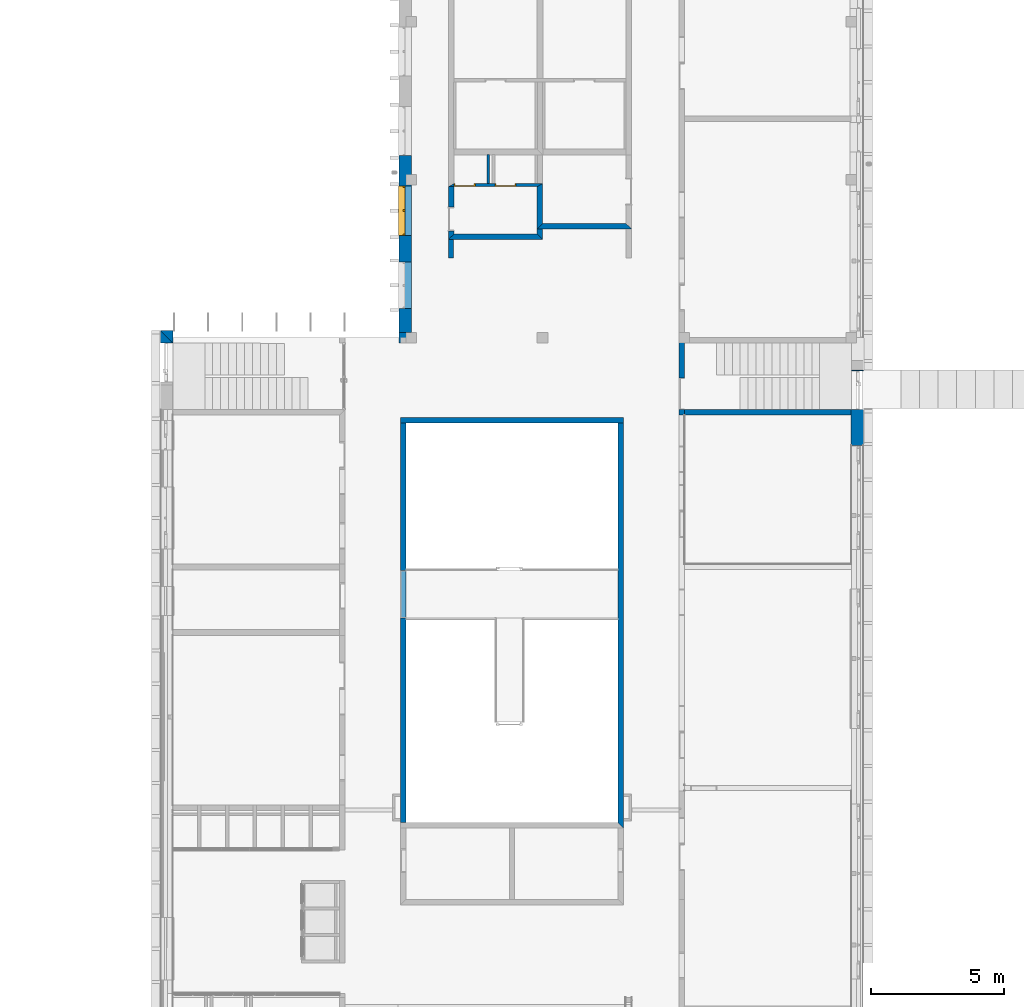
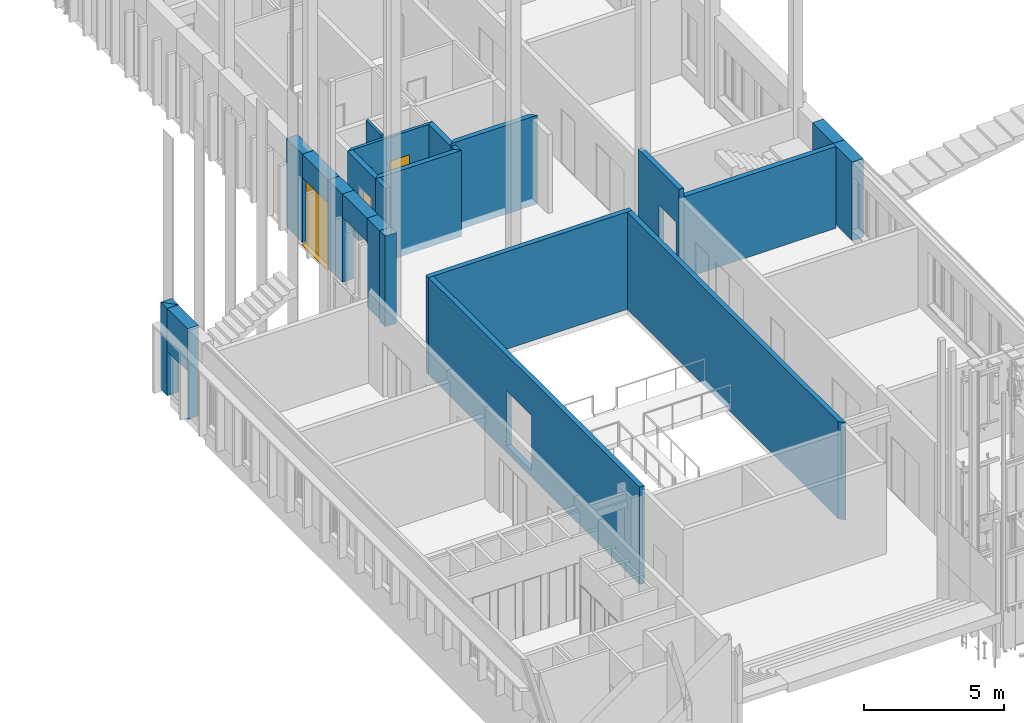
# One storey, part 14 of 89: 24 walls, 2 doors, 1 window, 9 openings.
"""IFC2X3 building model written with IfcOpenShell, lengths in millimetres."""

from ifc_helpers import new_model, entity, si_unit, converted_unit, derived_unit, money_unit, direction, frame, origin_with_axes, origin_2d_with_axis, place, context, subcontext, project, spatial, polyline, rectangle, outline, extrude, open_shell, faceted_brep, surface_model, source, transform, mapped, material, layer, layer_set, layer_usage, type_object, element, fill, save


model = new_model("IFC2X3")

# Units and contexts
model_context = context("Model", 3, precision=0.01, world=origin_with_axes(), true_north=direction((0.0, 1.0)))
body_context = subcontext(model_context, "Body", "Model", "MODEL_VIEW")
ifc_project = project(units=[si_unit("LENGTHUNIT", "METRE", prefix="MILLI"), si_unit("AREAUNIT", "SQUARE_METRE"), si_unit("VOLUMEUNIT", "CUBIC_METRE"), converted_unit("PLANEANGLEUNIT", "DEGREE", entity("IfcPlaneAngleMeasure", 0.0174532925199), si_unit("PLANEANGLEUNIT", "RADIAN"), dimensions=[0, 0, 0, 0, 0, 0, 0]), si_unit("SOLIDANGLEUNIT", "STERADIAN"), money_unit("EUR"), converted_unit("TIMEUNIT", "Year", entity("IfcTimeMeasure", 31556926.0), si_unit("TIMEUNIT", "SECOND"), dimensions=[0, 0, 1, 0, 0, 0, 0]), si_unit("MASSUNIT", "GRAM", prefix="KILO"), si_unit("THERMODYNAMICTEMPERATUREUNIT", "DEGREE_CELSIUS"), si_unit("LUMINOUSINTENSITYUNIT", "LUMEN"), si_unit("ENERGYUNIT", "JOULE", prefix="MEGA"), derived_unit("THERMALCONDUCTANCEUNIT", [(si_unit("POWERUNIT", "WATT"), 1), (si_unit("LENGTHUNIT", "METRE"), -1), (si_unit("THERMODYNAMICTEMPERATUREUNIT", "KELVIN"), -1)]), derived_unit("SPECIFICHEATCAPACITYUNIT", [(si_unit("ENERGYUNIT", "JOULE"), 1), (si_unit("MASSUNIT", "GRAM", prefix="KILO"), -1), (si_unit("THERMODYNAMICTEMPERATUREUNIT", "KELVIN"), -1)]), derived_unit("MASSDENSITYUNIT", [(si_unit("MASSUNIT", "GRAM", prefix="KILO"), 1), (si_unit("VOLUMEUNIT", "CUBIC_METRE"), -1)])], contexts=[model_context])

# Site, building, storey
site_placement = place(None, origin_with_axes())
site = spatial("IfcSite", under=ifc_project, at=site_placement, Name="Puškini 31, Narva", CompositionType="ELEMENT")
building_placement = place(site_placement, origin_with_axes())
building = spatial("IfcBuilding", under=site, at=building_placement, Name="Narva Riigigümnaasium", CompositionType="ELEMENT")
storey_placement = place(building_placement, frame((0.0, 0.0, -3300.0), z_axis=(0.0, 0.0, 1.0), x_axis=(1.0, 0.0, 0.0)))
storey = spatial("IfcBuildingStorey", under=building, at=storey_placement, Name="1.korrus -3.3", CompositionType="ELEMENT", Elevation=-3300.0)

# Wall
ifc_material_1 = material(Name="fassaadiplaat")
ifc_layer_1 = layer(ifc_material_1, 8.0, ventilated="UNKNOWN")
ifc_material_2 = material(Name="Salto-roovitus")
ifc_layer_2 = layer(ifc_material_2, 50.0, ventilated="UNKNOWN")
ifc_material_3 = material(Name="Salto-PIR soojustus")
ifc_layer_3 = layer(ifc_material_3, 50.0, ventilated="UNKNOWN")
ifc_layer_4 = layer(ifc_material_3, 150.0, ventilated="UNKNOWN")
ifc_material_4 = material(Name="Betoon element")
ifc_layer_5 = layer(ifc_material_4, 200.0, ventilated="UNKNOWN")
ifc_material_5 = material(Name="Salto-siseviimistlus-seinad")
ifc_layer_6 = layer(ifc_material_5, 10.0, ventilated="UNKNOWN")
ifc_layer_set_1 = layer_set([ifc_layer_1, ifc_layer_2, ifc_layer_3, ifc_layer_4, ifc_layer_5, ifc_layer_6], Name="G-VS-01")
ifc_layer_usage_1 = layer_usage(ifc_layer_set_1, "AXIS2", "NEGATIVE", 458.0)
wall_type_1 = type_object("IfcWallType", Name="G-VS-01 468", PredefinedType="NOTDEFINED")
wall_1_placement = place(storey_placement, frame((54000.000001, 221279.999999, 136.939766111), z_axis=(0.0, 0.0, 1.0), x_axis=(0.0, -1.0, 0.0)))
element("IfcWallStandardCase", 1, at=wall_1_placement, inside=storey, type_object=wall_type_1, material=ifc_layer_usage_1, Name="Välissein", context=body_context, shape_type="SweptSolid", body=[
    extrude(outline(polyline([(0.0, -10.0), (1348.97816396, -10.0), (1348.97816396, 458.0), (0.0, 458.0), (0.0, -10.0)])), origin_with_axes(), (0.0, 0.0, 1.0), 3428.06023389),
])

# Wall, opening, window
ifc_layer_usage_2 = layer_usage(ifc_layer_set_1, "AXIS2", "POSITIVE", -458.0)
wall_2_placement = place(storey_placement, frame((37400.0000002, 229709.212578, 0.0), z_axis=(0.0, 0.0, 1.0), x_axis=(0.0, -1.0, 0.0)))
wall_2 = element("IfcWallStandardCase", 2, at=wall_2_placement, inside=storey, type_object=wall_type_1, material=ifc_layer_usage_2, Name="Välissein", context=body_context, shape_type="SweptSolid", body=[
    extrude(outline(polyline([(0.0, -458.0), (1850.0, -458.0), (1850.0, 10.0), (0.0, 10.0), (0.0, -458.0)])), origin_with_axes(), (0.0, 0.0, 1.0), 3959.99999955),
])
opening_1_placement = place(wall_2_placement, frame((925.0, 0.0, 0.0), z_axis=(0.0, 0.0, 1.0), x_axis=(1.0, 0.0, 0.0)))
opening_1 = element("IfcOpeningElement", 3, at=opening_1_placement, cuts=wall_2, Name="G-A-30", context=body_context, shape_type="SweptSolid", body=[
    extrude(rectangle(XDim=1850.0, YDim=2940.0, at=origin_2d_with_axis()), frame((0.0, -308.0, 1470.0), z_axis=(0.0, -1.0, 0.0), x_axis=(1.0, 0.0, 0.0)), (0.0, 0.0, -1.0), 786.0),
    extrude(rectangle(XDim=1850.0, YDim=2940.0, at=origin_2d_with_axis()), frame((0.0, -308.0, 1470.0), z_axis=(0.0, 1.0, 0.0), x_axis=(1.0, 0.0, 0.0)), (0.0, 0.0, -1.0), 618.0),
])
window_style = type_object("IfcWindowStyle", Name="Horizontal Multi-Sash Window 23", ConstructionType="NOTDEFINED", OperationType="DOUBLE_PANEL_VERTICAL", ParameterTakesPrecedence=False, Sizeable=False)
shared_shape_1 = source(origin_with_axes(), body_context, "Body", "SurfaceModel", [
    surface_model("IfcShellBasedSurfaceModel", [(-925.0, -76.0, 50.0), (-925.0, -76.0, 40.0), (925.0, -76.0, 40.0), (925.0, -76.0, 50.0), (-925.0, -255.0, 28.0), (925.0, -255.0, 28.0), (-925.0, -255.0, 8.0), (925.0, -255.0, 8.0), (-925.0, -245.0, 18.0), (925.0, -245.0, 18.0)], [open_shell([[[0, 1, 2, 3]], [[1, 4, 5, 2]], [[4, 6, 7, 5]], [[6, 8, 9, 7]]])]),
    faceted_brep([(-875.0, -75.0, 2890.0), (-875.0, 0.0, 2890.0), (-925.0, 0.0, 2890.0), (-925.0, -75.0, 2890.0), (-875.0, -75.0, 50.0), (-875.0, 0.0, 50.0), (-925.0, 0.0, 50.0), (-925.0, -75.0, 50.0)], [[[0, 1, 2, 3]], [[4, 5, 1, 0]], [[1, 5, 6, 2]], [[3, 2, 6, 7]], [[0, 3, 7, 4]], [[7, 6, 5, 4]]]),
    faceted_brep([(875.0, -75.0, 50.0), (875.0, 0.0, 50.0), (925.0, 0.0, 50.0), (925.0, -75.0, 50.0), (875.0, -75.0, 2890.0), (875.0, 0.0, 2890.0), (925.0, 0.0, 2890.0), (925.0, -75.0, 2890.0)], [[[0, 1, 2, 3]], [[4, 5, 1, 0]], [[1, 5, 6, 2]], [[3, 2, 6, 7]], [[0, 3, 7, 4]], [[7, 6, 5, 4]]]),
    faceted_brep([(875.0, -75.0, 2890.0), (875.0, 0.0, 2890.0), (925.0, 0.0, 2890.0), (925.0, -75.0, 2890.0), (37.5, -75.0, 2890.0), (37.5, 0.0, 2890.0), (-37.5, 0.0, 2890.0), (-875.0, 0.0, 2890.0), (-925.0, 0.0, 2890.0), (-925.0, 0.0, 2940.0), (925.0, 0.0, 2940.0), (925.0, -75.0, 2940.0), (-925.0, -75.0, 2940.0), (-925.0, -75.0, 2890.0), (-875.0, -75.0, 2890.0), (-37.5, -75.0, 2890.0)], [[[0, 1, 2, 3]], [[4, 5, 1, 0]], [[1, 5, 6, 7, 8, 9, 10, 2]], [[3, 2, 10, 11]], [[0, 3, 11, 12, 13, 14, 15, 4]], [[15, 6, 5, 4]], [[14, 7, 6, 15]], [[13, 8, 7, 14]], [[12, 9, 8, 13]], [[11, 10, 9, 12]]]),
    faceted_brep([(37.5, -75.0, 50.0), (37.5, 0.0, 50.0), (-37.5, 0.0, 50.0), (-37.5, -75.0, 50.0), (875.0, -75.0, 50.0), (875.0, 0.0, 50.0), (925.0, 0.0, 50.0), (925.0, 0.0, 0.0), (-925.0, 0.0, 0.0), (-925.0, 0.0, 50.0), (-875.0, 0.0, 50.0), (-875.0, -75.0, 50.0), (-925.0, -75.0, 50.0), (-925.0, -75.0, 0.0), (925.0, -75.0, 0.0), (925.0, -75.0, 50.0)], [[[0, 1, 2, 3]], [[4, 5, 1, 0]], [[1, 5, 6, 7, 8, 9, 10, 2]], [[3, 2, 10, 11]], [[0, 3, 11, 12, 13, 14, 15, 4]], [[15, 6, 5, 4]], [[14, 7, 6, 15]], [[13, 8, 7, 14]], [[12, 9, 8, 13]], [[11, 10, 9, 12]]]),
    faceted_brep([(37.5, -75.0, 50.0), (37.5, 0.0, 50.0), (37.5, 0.0, 2890.0), (37.5, -75.0, 2890.0), (-37.5, -75.0, 50.0), (-37.5, 0.0, 50.0), (-37.5, 0.0, 2890.0), (-37.5, -75.0, 2890.0)], [[[0, 1, 2, 3]], [[4, 5, 1, 0]], [[1, 5, 6, 2]], [[3, 2, 6, 7]], [[0, 3, 7, 4]], [[7, 6, 5, 4]]]),
    surface_model("IfcShellBasedSurfaceModel", [(-875.0, -80.0, 50.0), (-37.5, -80.0, 50.0), (-37.5, -80.0, 2890.0), (-875.0, -80.0, 2890.0)], [open_shell([[[0, 1, 2, 3]]])]),
    surface_model("IfcShellBasedSurfaceModel", [(-875.0, -60.0, 50.0), (-875.0, -60.0, 2890.0), (-37.5, -60.0, 2890.0), (-37.5, -60.0, 50.0)], [open_shell([[[0, 1, 2, 3]]])]),
    surface_model("IfcShellBasedSurfaceModel", [(37.5, -80.0, 50.0), (875.0, -80.0, 50.0), (875.0, -80.0, 2890.0), (37.5, -80.0, 2890.0)], [open_shell([[[0, 1, 2, 3]]])]),
    surface_model("IfcShellBasedSurfaceModel", [(37.5, -60.0, 50.0), (37.5, -60.0, 2890.0), (875.0, -60.0, 2890.0), (875.0, -60.0, 50.0)], [open_shell([[[0, 1, 2, 3]]])]),
])
window_placement = place(opening_1_placement, frame((-925.0, 0.0, 0.0), z_axis=(0.0, 0.0, 1.0), x_axis=(1.0, 0.0, 0.0)))
window = element("IfcWindow", 4, at=window_placement, inside=storey, type_object=window_style, Name="G-A-30", ObjectType="WINDOW", OverallHeight=2940.0, OverallWidth=1850.0, context=body_context, shape_type="MappedRepresentation", body=[
    mapped(shared_shape_1, transform((925.0, -233.0, 0.0))),
])
fill(opening_1, window)

# Wall, opening
wall_3_placement = place(storey_placement, frame((37400.0000002, 226846.000005, 0.0), z_axis=(0.0, 0.0, 1.0), x_axis=(0.0, -1.0, 0.0)))
wall_3 = element("IfcWallStandardCase", 5, at=wall_3_placement, inside=storey, type_object=wall_type_1, material=ifc_layer_usage_2, Name="Välissein", context=body_context, shape_type="SweptSolid", body=[
    extrude(outline(polyline([(0.0, -458.0), (1750.0, -458.0), (1750.0, 10.0), (0.0, 10.0), (0.0, -458.0)])), origin_with_axes(), (0.0, 0.0, 1.0), 3959.99999955),
])
opening_2_placement = place(wall_3_placement, frame((875.0, 0.0, 0.0), z_axis=(0.0, 0.0, 1.0), x_axis=(1.0, 0.0, 0.0)))
element("IfcOpeningElement", 6, at=opening_2_placement, cuts=wall_3, Name="G-A-41", context=body_context, shape_type="SweptSolid", body=[
    extrude(rectangle(XDim=1750.0, YDim=2940.0, at=origin_2d_with_axis()), frame((0.0, -308.0, 1470.0), z_axis=(0.0, -1.0, 0.0), x_axis=(1.0, 0.0, 0.0)), (0.0, 0.0, -1.0), 786.0),
    extrude(rectangle(XDim=1750.0, YDim=2940.0, at=origin_2d_with_axis()), frame((0.0, -308.0, 1470.0), z_axis=(0.0, 1.0, 0.0), x_axis=(1.0, 0.0, 0.0)), (0.0, 0.0, -1.0), 618.0),
])

# Walls
wall_4_placement = place(storey_placement, frame((37400.0000002, 230859.212578, 100.0), z_axis=(0.0, 0.0, 1.0), x_axis=(0.0, -1.0, 0.0)))
element("IfcWallStandardCase", 7, at=wall_4_placement, inside=storey, type_object=wall_type_1, material=ifc_layer_usage_2, Name="Välissein", context=body_context, shape_type="SweptSolid", body=[
    extrude(outline(polyline([(0.0, -458.0), (1150.0, -458.0), (1150.0, 10.0), (0.0, 10.0), (0.0, -458.0)])), origin_with_axes(), (0.0, 0.0, 1.0), 3859.99999955),
])
wall_5_placement = place(storey_placement, frame((37400.0000002, 227859.212578, 100.0), z_axis=(0.0, 0.0, 1.0), x_axis=(0.0, -1.0, 0.0)))
element("IfcWallStandardCase", 8, at=wall_5_placement, inside=storey, type_object=wall_type_1, material=ifc_layer_usage_2, Name="Välissein", context=body_context, shape_type="SweptSolid", body=[
    extrude(outline(polyline([(0.0, -458.0), (1013.21257351, -458.0), (1013.21257351, 10.0), (0.0, 10.0), (0.0, -458.0)])), origin_with_axes(), (0.0, 0.0, 1.0), 3859.99999955),
])
wall_6_placement = place(storey_placement, frame((37400.0000002, 225096.000005, 100.0), z_axis=(0.0, 0.0, 1.0), x_axis=(0.0, -1.0, 0.0)))
element("IfcWallStandardCase", 9, at=wall_6_placement, inside=storey, type_object=wall_type_1, material=ifc_layer_usage_2, Name="Välissein", context=body_context, shape_type="SweptSolid", body=[
    extrude(outline(polyline([(0.0, -458.0), (1296.00000413, -458.0), (1296.00000413, 10.0), (0.0, 10.0), (0.0, -458.0)])), origin_with_axes(), (0.0, 0.0, 1.0), 3859.99999955),
])
wall_7_placement = place(storey_placement, frame((37400.0000002, 224200.0, 0.0), z_axis=(0.0, 0.0, 1.0), x_axis=(0.0, -1.0, 0.0)))
element("IfcWallStandardCase", 10, at=wall_7_placement, inside=storey, type_object=wall_type_1, material=ifc_layer_usage_2, Name="Välissein", context=body_context, shape_type="SweptSolid", body=[
    extrude(outline(polyline([(0.0, -458.0), (399.999999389, -458.0), (399.999999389, 10.0), (0.0, 10.0), (0.0, -458.0)])), origin_with_axes(), (0.0, 0.0, 1.0), 3959.99999955),
])

# Wall, opening
ifc_layer_set_2 = layer_set([ifc_layer_5], Name="G-SS-01")
ifc_layer_usage_3 = layer_usage(ifc_layer_set_2, "AXIS2", "POSITIVE", 0.0)
wall_type_2 = type_object("IfcWallType", Name="G-SS-01 200", PredefinedType="NOTDEFINED")
wall_8_placement = place(storey_placement, frame((47499.9999928, 224000.0, 0.0), z_axis=(0.0, 0.0, 1.0), x_axis=(0.0, -1.0, 0.0)))
wall_8 = element("IfcWallStandardCase", 11, at=wall_8_placement, inside=storey, type_object=wall_type_2, material=ifc_layer_usage_3, Name="Sisesein", context=body_context, shape_type="SweptSolid", body=[
    extrude(outline(polyline([(0.0, 0.0), (2930.00000142, 0.0), (2930.00000142, 200.0), (0.0, 200.0), (0.0, 0.0)])), origin_with_axes(), (0.0, 0.0, 1.0), 3960.0),
])
opening_3_placement = place(wall_8_placement, frame((2120.00000153, 0.0, 0.0), z_axis=(0.0, 0.0, 1.0), x_axis=(1.0, 0.0, 0.0)))
element("IfcOpeningElement", 12, at=opening_3_placement, cuts=wall_8, Name="G-SU-032", context=body_context, shape_type="SweptSolid", body=[
    extrude(rectangle(XDim=1199.99999978, YDim=2400.0, at=origin_2d_with_axis()), frame((0.0, 50.0, 1200.0), z_axis=(0.0, -1.0, 0.0), x_axis=(1.0, 0.0, 0.0)), (0.0, 0.0, -1.0), 350.0),
    extrude(rectangle(XDim=1199.99999978, YDim=2400.0, at=origin_2d_with_axis()), frame((0.0, 50.0, 1200.0), z_axis=(0.0, 1.0, 0.0), x_axis=(1.0, 0.0, 0.0)), (0.0, 0.0, -1.0), 250.0),
    extrude(rectangle(XDim=1199.99999978, YDim=2400.0, at=origin_2d_with_axis()), frame((0.0, 200.0, 1200.0), z_axis=(0.0, -1.0, 0.0), x_axis=(1.0, 0.0, 0.0)), (0.0, 0.0, -1.0), 350.0),
])

# Wall
ifc_layer_usage_4 = layer_usage(ifc_layer_set_2, "AXIS2", "NEGATIVE", 0.0)
wall_9_placement = place(storey_placement, frame((45400.0000855, 220780.0, -290.0), z_axis=(0.0, 0.0, 1.0), x_axis=(-1.0, 0.0, 0.0)))
element("IfcWallStandardCase", 13, at=wall_9_placement, inside=storey, type_object=wall_type_2, material=ifc_layer_usage_4, Name="Sisesein", context=body_context, shape_type="SweptSolid", body=[
    extrude(outline(polyline([(0.0, -200.0), (8399.99972301, -200.0), (8399.99972301, 0.0), (0.0, 0.0), (0.0, -200.0)])), origin_with_axes(), (0.0, 0.0, 1.0), 4250.0),
])

# Wall, opening
wall_10_placement = place(storey_placement, frame((37200.0042688, 220780.0, -290.0), z_axis=(0.0, 0.0, 1.0), x_axis=(0.0, -1.0, 0.0)))
wall_10 = element("IfcWallStandardCase", 14, at=wall_10_placement, inside=storey, type_object=wall_type_2, material=ifc_layer_usage_4, Name="Sisesein", context=body_context, shape_type="SweptSolid", body=[
    extrude(outline(polyline([(0.0, -200.0), (15079.9999758, -200.0), (15079.9999758, 0.0), (0.0, 0.0), (0.0, -200.0)])), origin_with_axes(), (0.0, 0.0, 1.0), 4250.0),
])
opening_4_placement = place(wall_10_placement, frame((6465.49976501, 0.0, 290.0), z_axis=(0.0, 0.0, 1.0), x_axis=(1.0, 0.0, 0.0)))
element("IfcOpeningElement", 15, at=opening_4_placement, cuts=wall_10, Name="G-SU-036", context=body_context, shape_type="SweptSolid", body=[
    extrude(rectangle(XDim=1799.99999997, YDim=2400.0, at=origin_2d_with_axis()), frame((0.0, 200.0, 1200.0), z_axis=(0.0, 1.0, 0.0), x_axis=(1.0, 0.0, 0.0)), (0.0, 0.0, -1.0), 600.0),
])

# Wall
wall_11_placement = place(storey_placement, frame((45199.9998549, 205700.000024, -290.0), z_axis=(0.0, 0.0, 1.0), x_axis=(0.0, 1.0, 0.0)))
element("IfcWallStandardCase", 16, at=wall_11_placement, inside=storey, type_object=wall_type_2, material=ifc_layer_usage_4, Name="Sisesein", context=body_context, shape_type="SweptSolid", body=[
    extrude(outline(polyline([(-200.0, -200.0), (15079.9999758, -200.0), (15079.9999758, 0.0), (0.0, 0.0), (-200.0, -200.0)])), origin_with_axes(), (0.0, 0.0, 1.0), 4250.0),
])

# Wall, opening
ifc_layer_set_3 = layer_set([ifc_layer_1, ifc_layer_2, ifc_layer_3, ifc_layer_4, ifc_layer_5], Name="G-VS-01-01")
ifc_layer_usage_5 = layer_usage(ifc_layer_set_3, "AXIS2", "NEGATIVE", 458.0)
wall_type_3 = type_object("IfcWallType", Name="G-VS-01-01 458", PredefinedType="NOTDEFINED")
wall_12_placement = place(storey_placement, frame((54000.000001, 222780.236748, 136.939766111), z_axis=(0.0, 0.0, 1.0), x_axis=(0.0, -1.0, 0.0)))
wall_12 = element("IfcWallStandardCase", 17, at=wall_12_placement, inside=storey, type_object=wall_type_3, material=ifc_layer_usage_5, Name="Välissein", context=body_context, shape_type="SweptSolid", body=[
    extrude(outline(polyline([(0.0, 0.0), (1500.23674966, 0.0), (1500.23674966, 458.0), (0.0, 458.0), (0.0, 0.0)])), origin_with_axes(), (0.0, 0.0, 1.0), 3428.06023389),
])
opening_5_placement = place(wall_12_placement, frame((770.236749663, 0.0, -136.939766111), z_axis=(0.0, 0.0, 1.0), x_axis=(1.0, 0.0, 0.0)))
element("IfcOpeningElement", 18, at=opening_5_placement, cuts=wall_12, Name="G-VU-01", context=body_context, shape_type="SweptSolid", body=[
    extrude(rectangle(XDim=1460.0, YDim=2100.0, at=origin_2d_with_axis()), frame((0.0, 308.0, 1050.0), z_axis=(0.0, 1.0, 0.0), x_axis=(1.0, 0.0, 0.0)), (0.0, 0.0, -1.0), 766.0),
    extrude(rectangle(XDim=1460.0, YDim=2100.0, at=origin_2d_with_axis()), frame((0.0, 308.0, 1050.0), z_axis=(0.0, -1.0, 0.0), x_axis=(1.0, 0.0, 0.0)), (0.0, 0.0, -1.0), 608.0),
])

wall_13_placement = place(storey_placement, frame((28400.0401775, 222328.755438, 0.0), z_axis=(0.0, 0.0, 1.0), x_axis=(0.0, 1.0, 0.0)))
wall_13 = element("IfcWallStandardCase", 19, at=wall_13_placement, inside=storey, type_object=wall_type_3, material=ifc_layer_usage_5, Name="Välissein", context=body_context, shape_type="SweptSolid", body=[
    extrude(outline(polyline([(0.0, 0.0), (1461.23844438, 0.0), (1461.23161115, 458.0), (0.0, 458.0), (0.0, 0.0)])), origin_with_axes(), (0.0, 0.0, 1.0), 3960.0),
])
opening_6_placement = place(wall_13_placement, frame((731.244561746, 0.0, 0.0), z_axis=(0.0, 0.0, 1.0), x_axis=(1.0, 0.0, 0.0)))
element("IfcOpeningElement", 20, at=opening_6_placement, cuts=wall_13, Name="G-VU-02", context=body_context, shape_type="SweptSolid", body=[
    extrude(rectangle(XDim=1460.0, YDim=2100.0, at=origin_2d_with_axis()), frame((0.0, 308.0, 1050.0), z_axis=(0.0, 1.0, 0.0), x_axis=(1.0, 0.0, 0.0)), (0.0, 0.0, -1.0), 766.0),
    extrude(rectangle(XDim=1460.0, YDim=2100.0, at=origin_2d_with_axis()), frame((0.0, 308.0, 1050.0), z_axis=(0.0, -1.0, 0.0), x_axis=(1.0, 0.0, 0.0)), (0.0, 0.0, -1.0), 608.0),
])

# Walls
wall_14_placement = place(storey_placement, frame((28400.0401775, 223789.99388, 149.999812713), z_axis=(0.0, 0.0, 1.0), x_axis=(-2.98394308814e-05, 0.999999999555, 0.0)))
element("IfcWallStandardCase", 21, at=wall_14_placement, inside=storey, type_object=wall_type_3, material=ifc_layer_usage_5, Name="Välissein", context=body_context, shape_type="SweptSolid", body=[
    extrude(outline(polyline([(0.0, 0.0), (10.006124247, 0.0), (468.01979091, 458.0), (0.00683322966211, 458.0), (0.0, 0.0)])), origin_with_axes(), (0.0, 0.0, 1.0), 3810.00018729),
])
wall_15_placement = place(storey_placement, frame((28400.0401775, 223800.000005, 149.999812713), z_axis=(0.0, 0.0, 1.0), x_axis=(1.0, 0.0, 0.0)))
element("IfcWallStandardCase", 22, at=wall_15_placement, inside=storey, type_object=wall_type_3, material=ifc_layer_usage_5, Name="Välissein", context=body_context, shape_type="SweptSolid", body=[
    extrude(outline(polyline([(-0.000298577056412, 0.0), (10.0002983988, 0.0), (10.0002983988, 458.0), (-458.01396524, 458.0), (-0.000298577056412, 0.0)])), origin_with_axes(), (0.0, 0.0, 1.0), 3810.00018729),
])
ifc_material_6 = material(Name="siseviimistlus-seinad")
ifc_layer_7 = layer(ifc_material_6, 15.0, ventilated="UNKNOWN")
ifc_material_7 = material(Name="Kipsplaat")
ifc_layer_8 = layer(ifc_material_7, 12.5, ventilated="UNKNOWN")
ifc_layer_9 = layer(ifc_material_7, 12.0, ventilated="UNKNOWN")
ifc_material_8 = material(Name="Karkass")
ifc_layer_10 = layer(ifc_material_8, 66.0, ventilated="UNKNOWN")
ifc_layer_set_4 = layer_set([ifc_layer_7, ifc_layer_8, ifc_layer_9, ifc_layer_10], Name="G-SS-06")
ifc_layer_usage_6 = layer_usage(ifc_layer_set_4, "AXIS2", "NEGATIVE", 15.0)
wall_type_4 = type_object("IfcWallType", Name="G-SS-06 106", PredefinedType="NOTDEFINED")
wall_16_placement = place(storey_placement, frame((40265.0000022, 229800.000019, 0.0), z_axis=(0.0, 0.0, 1.0), x_axis=(0.0, 1.0, 0.0)))
element("IfcWallStandardCase", 23, at=wall_16_placement, inside=storey, type_object=wall_type_4, material=ifc_layer_usage_6, Name="Sisesein", context=body_context, shape_type="SweptSolid", body=[
    extrude(outline(polyline([(15.0, -90.5), (1099.99998157, -90.5), (1099.99998157, 15.0), (15.0, 15.0), (15.0, -90.5)])), origin_with_axes(), (0.0, 0.0, 1.0), 3560.0),
])
ifc_layer_11 = layer(ifc_material_6, 10.0, ventilated="UNKNOWN")
ifc_layer_set_5 = layer_set([ifc_layer_5, ifc_layer_11], Name="G-SS-01-02")
ifc_layer_usage_7 = layer_usage(ifc_layer_set_5, "AXIS2", "NEGATIVE", 0.0)
wall_type_5 = type_object("IfcWallType", Name="G-SS-01-02 210", PredefinedType="NOTDEFINED")
wall_17_placement = place(storey_placement, frame((47499.9999802, 221279.999999, 0.0), z_axis=(0.0, 0.0, 1.0), x_axis=(1.0, 0.0, 0.0)))
element("IfcWallStandardCase", 24, at=wall_17_placement, inside=storey, type_object=wall_type_5, material=ifc_layer_usage_7, Name="Sisesein", context=body_context, shape_type="SweptSolid", body=[
    extrude(outline(polyline([(200.000012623, -210.0), (6490.00002087, -210.0), (6490.00002087, 0.0), (200.000012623, 0.0), (200.000012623, -210.0)])), origin_with_axes(), (0.0, 0.0, 1.0), 3565.0),
])
ifc_material_9 = material(Name="õõnes betoonplokk")
ifc_layer_12 = layer(ifc_material_9, 190.0, ventilated="UNKNOWN")
ifc_layer_set_6 = layer_set([ifc_layer_12, ifc_layer_11], Name="G-SS-02-01")
ifc_layer_usage_8 = layer_usage(ifc_layer_set_6, "AXIS2", "NEGATIVE", 0.0)
wall_type_6 = type_object("IfcWallType", Name="G-SS-02-01 200", PredefinedType="NOTDEFINED")
wall_18_placement = place(storey_placement, frame((45700.0000001, 228100.0, -309.999978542), z_axis=(0.0, 0.0, 1.0), x_axis=(-1.0, 0.0, 0.0)))
element("IfcWallStandardCase", 25, at=wall_18_placement, inside=storey, type_object=wall_type_6, material=ifc_layer_usage_8, Name="Sisesein", context=body_context, shape_type="SweptSolid", body=[
    extrude(outline(polyline([(200.0, -200.0), (3339.99999997, -200.0), (3549.99999997, 0.0), (-10.0, 0.0), (200.0, -200.0)])), origin_with_axes(), (0.0, 0.0, 1.0), 3874.99997854),
])
ifc_layer_usage_9 = layer_usage(ifc_layer_set_6, "AXIS2", "POSITIVE", 0.0)
wall_19_placement = place(storey_placement, frame((42350.0000002, 227700.0, 0.0), z_axis=(0.0, 0.0, 1.0), x_axis=(0.0, 1.0, 0.0)))
element("IfcWallStandardCase", 26, at=wall_19_placement, inside=storey, type_object=wall_type_6, material=ifc_layer_usage_9, Name="Sisesein", context=body_context, shape_type="SweptSolid", body=[
    extrude(outline(polyline([(0.0, 0.0), (400.0, 0.0), (400.0, 200.0), (200.0, 200.0), (0.0, 0.0)])), origin_with_axes(), (0.0, 0.0, 1.0), 3445.0),
])
wall_20_placement = place(storey_placement, frame((42350.0000002, 227700.0, -309.999978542), z_axis=(0.0, 0.0, 1.0), x_axis=(-1.0, 0.0, 0.0)))
element("IfcWallStandardCase", 27, at=wall_20_placement, inside=storey, type_object=wall_type_6, material=ifc_layer_usage_8, Name="Sisesein", context=body_context, shape_type="SweptSolid", body=[
    extrude(outline(polyline([(200.0, -200.0), (3339.99999992, -200.0), (3549.99999992, 0.0), (0.0, 0.0), (200.0, -200.0)])), origin_with_axes(), (0.0, 0.0, 1.0), 3754.99997854),
])
wall_21_placement = place(storey_placement, frame((39000.0000003, 227000.0, 0.0), z_axis=(0.0, 0.0, 1.0), x_axis=(0.0, 1.0, 0.0)))
element("IfcWallStandardCase", 28, at=wall_21_placement, inside=storey, type_object=wall_type_6, material=ifc_layer_usage_9, Name="Sisesein", context=body_context, shape_type="SweptSolid", body=[
    extrude(outline(polyline([(0.0, 0.0), (700.000000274, 0.0), (700.000000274, 200.0), (0.0, 200.0), (0.0, 0.0)])), origin_with_axes(), (0.0, 0.0, 1.0), 3445.0),
])

# Wall, openings, doors
ifc_material_10 = material(Name="kergbetoonplokk")
ifc_layer_13 = layer(ifc_material_10, 100.0, ventilated="UNKNOWN")
ifc_layer_set_7 = layer_set([ifc_layer_7, ifc_layer_13, ifc_layer_11], Name="G-SS-05-04")
ifc_layer_usage_10 = layer_usage(ifc_layer_set_7, "AXIS2", "NEGATIVE", 15.0)
wall_type_7 = type_object("IfcWallType", Name="G-SS-05-04 125", PredefinedType="NOTDEFINED")
wall_22_placement = place(storey_placement, frame((39000.0000003, 229800.000019, 0.0), z_axis=(0.0, 0.0, 1.0), x_axis=(1.0, 0.0, 0.0)))
wall_22 = element("IfcWallStandardCase", 29, at=wall_22_placement, inside=storey, type_object=wall_type_7, material=ifc_layer_usage_10, Name="Sisesein", context=body_context, shape_type="SweptSolid", body=[
    extrude(outline(polyline([(-200.0, -110.0), (3149.99999992, -110.0), (3359.99999992, 15.0), (15.0, 15.0), (-200.0, -110.0)])), origin_with_axes(), (0.0, 0.0, 1.0), 3445.0),
])
opening_7_placement = place(wall_22_placement, frame((415.0, 0.0, 0.0), z_axis=(0.0, 0.0, 1.0), x_axis=(1.0, 0.0, 0.0)))
opening_7 = element("IfcOpeningElement", 30, at=opening_7_placement, cuts=wall_22, Name="G-SU-044", context=body_context, shape_type="SweptSolid", body=[
    extrude(rectangle(XDim=800.0, YDim=2400.0, at=origin_2d_with_axis()), frame((0.0, 125.0, 1200.0), z_axis=(0.0, -1.0, 0.0), x_axis=(-1.0, 0.0, 0.0)), (0.0, 0.0, 1.0), 375.0),
])
opening_8_placement = place(wall_22_placement, frame((1949.99999949, 0.0, 0.0), z_axis=(0.0, 0.0, 1.0), x_axis=(1.0, 0.0, 0.0)))
opening_8 = element("IfcOpeningElement", 31, at=opening_8_placement, cuts=wall_22, Name="G-SU-045", context=body_context, shape_type="SweptSolid", body=[
    extrude(rectangle(XDim=800.0, YDim=2400.0, at=origin_2d_with_axis()), frame((0.0, 125.0, 1200.0), z_axis=(0.0, -1.0, 0.0), x_axis=(-1.0, 0.0, 0.0)), (0.0, 0.0, 1.0), 375.0),
])
door_style = type_object("IfcDoorStyle", Name="Door 23", ConstructionType="NOTDEFINED", OperationType="SINGLE_SWING_RIGHT", ParameterTakesPrecedence=False, Sizeable=False)
shared_shape_2 = source(origin_with_axes(), body_context, "Body", "Brep", [
    faceted_brep([(-360.0, -40.0, 0.0), (-360.0, -40.0, 2360.0), (-360.0, -125.0, 2360.0), (-360.0, -125.0, 0.0), (-372.0, -40.0, 2360.0), (-372.0, -40.0, 0.0), (-372.0, 0.0, 2360.0), (-400.0, 0.0, 2360.0), (-400.0, -125.0, 2360.0), (-400.0, -125.0, 0.0), (-400.0, 0.0, 0.0), (-372.0, 0.0, 0.0)], [[[0, 1, 2, 3]], [[4, 1, 0, 5]], [[4, 6, 7, 8, 2, 1]], [[3, 2, 8, 9]], [[5, 0, 3, 9, 10, 11]], [[6, 4, 5, 11]], [[6, 11, 10, 7]], [[10, 9, 8, 7]]]),
    faceted_brep([(372.0, -40.0, 2360.0), (360.0, -40.0, 2360.0), (360.0, -125.0, 2360.0), (400.0, -125.0, 2360.0), (400.0, 0.0, 2360.0), (372.0, 0.0, 2360.0), (372.0, -40.0, 0.0), (360.0, -40.0, 0.0), (360.0, -125.0, 0.0), (400.0, -125.0, 0.0), (400.0, 0.0, 0.0), (372.0, 0.0, 0.0)], [[[0, 1, 2, 3, 4, 5]], [[1, 0, 6, 7]], [[1, 7, 8, 2]], [[3, 2, 8, 9]], [[4, 3, 9, 10]], [[11, 5, 4, 10]], [[0, 5, 11, 6]], [[6, 11, 10, 9, 8, 7]]]),
    faceted_brep([(-372.0, 0.0, 2372.0), (-372.0, 0.0, 2360.0), (-400.0, 0.0, 2360.0), (-400.0, 0.0, 2400.0), (400.0, 0.0, 2400.0), (400.0, 0.0, 2360.0), (372.0, 0.0, 2360.0), (372.0, 0.0, 2372.0), (-372.0, -40.0, 2372.0), (-372.0, -40.0, 2360.0), (-360.0, -40.0, 2360.0), (-360.0, -125.0, 2360.0), (-400.0, -125.0, 2360.0), (-400.0, -125.0, 2400.0), (400.0, -125.0, 2400.0), (400.0, -125.0, 2360.0), (372.0, -40.0, 2360.0), (360.0, -125.0, 2360.0), (360.0, -40.0, 2360.0), (372.0, -40.0, 2372.0)], [[[0, 1, 2, 3, 4, 5, 6, 7]], [[1, 0, 8, 9]], [[9, 10, 11, 12, 2, 1]], [[2, 12, 13, 3]], [[3, 13, 14, 4]], [[4, 14, 15, 5]], [[16, 6, 5, 15, 17, 18]], [[7, 6, 16, 19]], [[0, 7, 19, 8]], [[16, 18, 10, 9, 8, 19]], [[10, 18, 17, 11]], [[17, 15, 14, 13, 12, 11]]]),
    faceted_brep([(372.0, 0.0, 0.0), (372.0, -40.0, 0.0), (-372.0, -40.0, 0.0), (-372.0, 0.0, 0.0), (372.0, 0.0, 2372.0), (372.0, -40.0, 2372.0), (-372.0, -40.0, 2372.0), (-372.0, 0.0, 2372.0)], [[[0, 1, 2, 3]], [[4, 5, 1, 0]], [[1, 5, 6, 2]], [[3, 2, 6, 7]], [[0, 3, 7, 4]], [[7, 6, 5, 4]]]),
])
door_1_placement = place(opening_7_placement, frame((400.0, 0.0, 0.0), z_axis=(0.0, 0.0, 1.0), x_axis=(-1.0, 0.0, 0.0)))
door_1 = element("IfcDoor", 32, at=door_1_placement, inside=storey, type_object=door_style, Name="G-SU-044", ObjectType="DOOR", OverallHeight=2400.0, OverallWidth=800.0, context=body_context, shape_type="MappedRepresentation", body=[
    mapped(shared_shape_2, transform((400.0, 110.0, 0.0))),
])
fill(opening_7, door_1)
door_2_placement = place(opening_8_placement, frame((400.0, 0.0, 0.0), z_axis=(0.0, 0.0, 1.0), x_axis=(-1.0, 0.0, 0.0)))
door_2 = element("IfcDoor", 33, at=door_2_placement, inside=storey, type_object=door_style, Name="G-SU-045", ObjectType="DOOR", OverallHeight=2400.0, OverallWidth=800.0, context=body_context, shape_type="MappedRepresentation", body=[
    mapped(shared_shape_2, transform((400.0, 110.0, 0.0))),
])
fill(opening_8, door_2)

# Wall
ifc_layer_set_8 = layer_set([ifc_layer_11, ifc_layer_12, ifc_layer_11], Name="G-SS-02")
ifc_layer_usage_11 = layer_usage(ifc_layer_set_8, "AXIS2", "POSITIVE", -10.0)
wall_type_8 = type_object("IfcWallType", Name="G-SS-02 210", PredefinedType="NOTDEFINED")
wall_23_placement = place(storey_placement, frame((42350.0000002, 228100.0, 0.0), z_axis=(0.0, 0.0, 1.0), x_axis=(0.0, 1.0, 0.0)))
element("IfcWallStandardCase", 34, at=wall_23_placement, inside=storey, type_object=wall_type_8, material=ifc_layer_usage_11, Name="Sisesein", context=body_context, shape_type="SweptSolid", body=[
    extrude(outline(polyline([(200.0, -10.0), (1715.00001846, -10.0), (1590.00001846, 200.0), (0.0, 200.0), (200.0, -10.0)])), origin_with_axes(), (0.0, 0.0, 1.0), 3445.0),
])

# Wall, opening
ifc_layer_usage_12 = layer_usage(ifc_layer_set_8, "AXIS2", "NEGATIVE", 10.0)
wall_24_placement = place(storey_placement, frame((38810.0000003, 227700.0, 0.0), z_axis=(0.0, 0.0, 1.0), x_axis=(0.0, 1.0, 0.0)))
wall_24 = element("IfcWallStandardCase", 35, at=wall_24_placement, inside=storey, type_object=wall_type_8, material=ifc_layer_usage_12, Name="Sisesein", context=body_context, shape_type="SweptSolid", body=[
    extrude(outline(polyline([(200.0, -200.0), (1990.00001846, -200.0), (1990.00001846, 10.0), (0.0, 10.0), (200.0, -200.0)])), origin_with_axes(), (0.0, 0.0, 1.0), 3445.0),
])
opening_9_placement = place(wall_24_placement, frame((769.676408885, 0.0, 0.0), z_axis=(0.0, 0.0, 1.0), x_axis=(1.0, 0.0, 0.0)))
element("IfcOpeningElement", 36, at=opening_9_placement, cuts=wall_24, Name="G-SU-043", context=body_context, shape_type="SweptSolid", body=[
    extrude(rectangle(XDim=900.0, YDim=2400.0, at=origin_2d_with_axis()), frame((0.0, -210.0, 1200.0), z_axis=(0.0, 1.0, 0.0), x_axis=(-1.0, 0.0, 0.0)), (0.0, 0.0, 1.0), 630.0),
    extrude(rectangle(XDim=960.0, YDim=2430.0, at=origin_2d_with_axis()), frame((0.0, -200.0, 1215.0), z_axis=(0.0, 1.0, 0.0), x_axis=(-1.0, 0.0, 0.0)), (0.0, 0.0, -1.0), 210.0),
    extrude(rectangle(XDim=956.0, YDim=2428.0, at=origin_2d_with_axis()), frame((0.0, 10.0, 1214.0), z_axis=(0.0, -1.0, 0.0), x_axis=(-1.0, 0.0, 0.0)), (0.0, 0.0, -1.0), 210.0),
])

save(model, "model.ifc")
